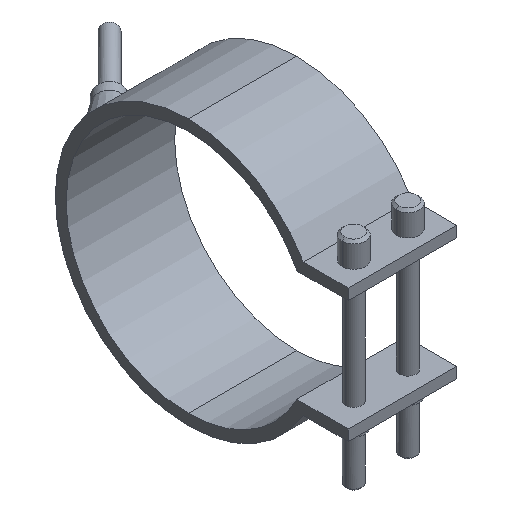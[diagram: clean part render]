
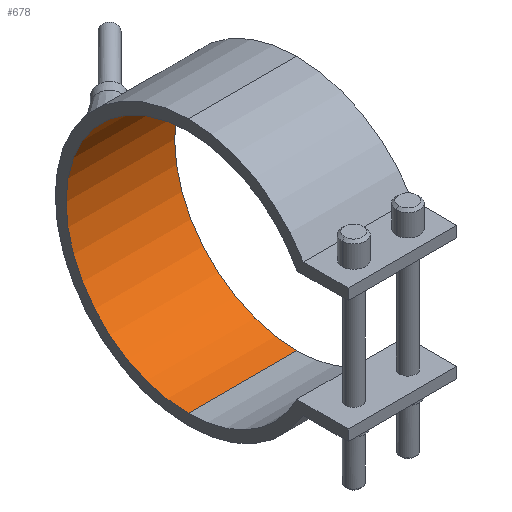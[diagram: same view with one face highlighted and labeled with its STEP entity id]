
A CAD part, isometric view. The second image highlights one B-rep face of the part: STEP entity #678.
In plain terms, the highlighted cylindrical face has radius 45 mm (diameter 90 mm), a partial arc.
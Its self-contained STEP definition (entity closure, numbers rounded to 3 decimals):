
#348=CARTESIAN_POINT('Vertex',(20.,0.,45.)) ;
#353=CARTESIAN_POINT('Axis2P3D Location',(20.,0.,0.)) ;
#357=CARTESIAN_POINT('Vertex',(20.,0.,-45.)) ;
#464=CARTESIAN_POINT('Vertex',(-20.,0.,-45.)) ;
#467=CARTESIAN_POINT('Axis2P3D Location',(-20.,0.,0.)) ;
#471=CARTESIAN_POINT('Vertex',(-20.,0.,45.)) ;
#650=CARTESIAN_POINT('Line Origine',(20.,0.,45.)) ;
#662=CARTESIAN_POINT('Axis2P3D Location',(20.,0.,0.)) ;
#667=CARTESIAN_POINT('Line Origine',(20.,0.,-45.)) ;
#354=DIRECTION('Axis2P3D Direction',(1.,0.,0.)) ;
#468=DIRECTION('Axis2P3D Direction',(1.,0.,0.)) ;
#651=DIRECTION('Vector Direction',(1.,0.,0.)) ;
#663=DIRECTION('Axis2P3D Direction',(1.,0.,-0.)) ;
#664=DIRECTION('Axis2P3D XDirection',(0.,0.,-1.)) ;
#668=DIRECTION('Vector Direction',(1.,0.,0.)) ;
#355=AXIS2_PLACEMENT_3D('Circle Axis2P3D',#353,#354,$) ;
#469=AXIS2_PLACEMENT_3D('Circle Axis2P3D',#467,#468,$) ;
#665=AXIS2_PLACEMENT_3D('Cylinder Axis2P3D',#662,#663,#664) ;
#673=ORIENTED_EDGE('',*,*,#359,.T.) ;
#674=ORIENTED_EDGE('',*,*,#654,.T.) ;
#675=ORIENTED_EDGE('',*,*,#473,.F.) ;
#676=ORIENTED_EDGE('',*,*,#671,.T.) ;
#652=VECTOR('Line Direction',#651,1.) ;
#669=VECTOR('Line Direction',#668,1.) ;
#678=ADVANCED_FACE('29090040',(#677),#666,.F.) ;
#356=CIRCLE('generated circle',#355,45.) ;
#470=CIRCLE('generated circle',#469,45.) ;
#666=CYLINDRICAL_SURFACE('generated cylinder',#665,45.) ;
#359=EDGE_CURVE('',#358,#349,#356,.T.) ;
#473=EDGE_CURVE('',#465,#472,#470,.T.) ;
#654=EDGE_CURVE('',#349,#472,#653,.F.) ;
#671=EDGE_CURVE('',#465,#358,#670,.T.) ;
#672=EDGE_LOOP('',(#673,#674,#675,#676)) ;
#677=FACE_OUTER_BOUND('',#672,.T.) ;
#653=LINE('Line',#650,#652) ;
#670=LINE('Line',#667,#669) ;
#349=VERTEX_POINT('',#348) ;
#358=VERTEX_POINT('',#357) ;
#465=VERTEX_POINT('',#464) ;
#472=VERTEX_POINT('',#471) ;
